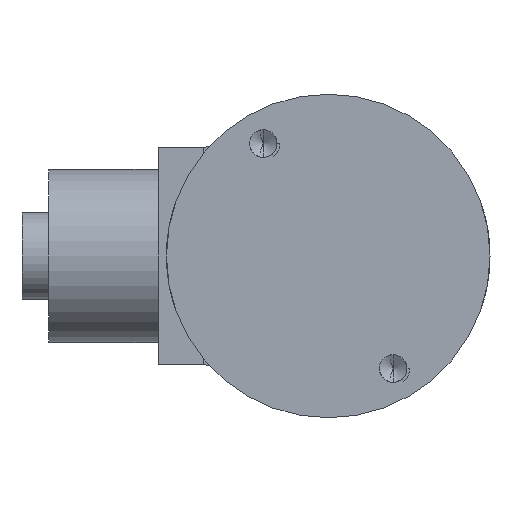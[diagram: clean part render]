
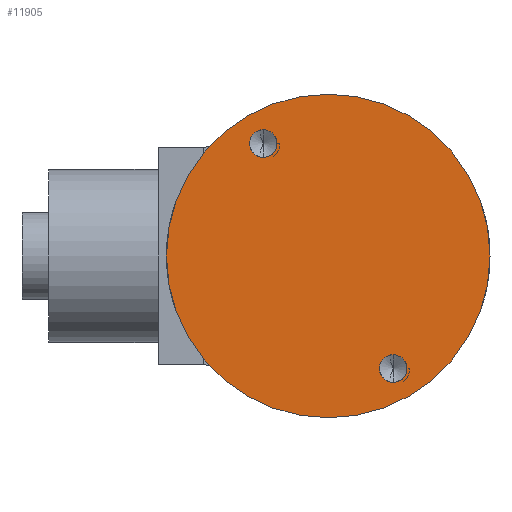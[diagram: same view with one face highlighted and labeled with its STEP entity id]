
A CAD part, front view. The second image highlights one B-rep face of the part: STEP entity #11905.
In plain terms, the highlighted planar face has unit normal (0, -1, 0).
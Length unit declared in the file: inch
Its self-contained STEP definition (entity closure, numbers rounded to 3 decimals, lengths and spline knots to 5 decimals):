
#163 = CARTESIAN_POINT ( 'NONE',  ( -0.375, -1.74, 0.72902 ) ) ;
#186 = CARTESIAN_POINT ( 'NONE',  ( 0.375, -1.74, -0.72902 ) ) ;
#237 = ORIENTED_EDGE ( 'NONE', *, *, #12382, .F. ) ;
#408 = ORIENTED_EDGE ( 'NONE', *, *, #9824, .F. ) ;
#421 = DIRECTION ( 'NONE',  ( 0., 0., -1. ) ) ;
#488 = FACE_BOUND ( 'NONE', #7915, .T. ) ;
#581 = DIRECTION ( 'NONE',  ( 0., 0., 1. ) ) ;
#601 = DIRECTION ( 'NONE',  ( 0., -1., 0. ) ) ;
#669 = CARTESIAN_POINT ( 'NONE',  ( -0.375, -1.74, 0.64952 ) ) ;
#689 = CARTESIAN_POINT ( 'NONE',  ( 0.375, -1.74, -0.64952 ) ) ;
#865 = VERTEX_POINT ( 'NONE', #7858 ) ;
#1002 = EDGE_CURVE ( 'Defeatured_0_24+Defeatured_0_23+Defeatured_0_23+Defeatured_0_23', #3420, #5381, #9059, .T. ) ;
#1246 = DIRECTION ( 'NONE',  ( 0., -1., 0. ) ) ;
#1431 = AXIS2_PLACEMENT_3D ( 'NONE', #669, #1917, #15689 ) ;
#1680 = AXIS2_PLACEMENT_3D ( 'NONE', #9819, #7304, #15265 ) ;
#1917 = DIRECTION ( 'NONE',  ( 0., -1., 0. ) ) ;
#1981 = AXIS2_PLACEMENT_3D ( 'NONE', #689, #601, #421 ) ;
#2399 = DIRECTION ( 'NONE',  ( 0., 1., 0. ) ) ;
#2434 = AXIS2_PLACEMENT_3D ( 'NONE', #3333, #10052, #8534 ) ;
#2731 = CIRCLE ( 'NONE', #2434, 0.0795 ) ;
#3333 = CARTESIAN_POINT ( 'NONE',  ( 0.375, -1.74, -0.64952 ) ) ;
#3420 = VERTEX_POINT ( 'NONE', #4262 ) ;
#3990 = CARTESIAN_POINT ( 'NONE',  ( 0., -1.74, 0.934 ) ) ;
#4262 = CARTESIAN_POINT ( 'NONE',  ( 0., -1.74, -0.934 ) ) ;
#4695 = VERTEX_POINT ( 'NONE', #8395 ) ;
#5142 = AXIS2_PLACEMENT_3D ( 'NONE', #13507, #1246, #13854 ) ;
#5381 = VERTEX_POINT ( 'NONE', #3990 ) ;
#5984 = EDGE_LOOP ( 'NONE', ( #12495, #8912, #408 ) ) ;
#6321 = EDGE_CURVE ( 'Defeatured_0_24+Defeatured_0_23+Defeatured_0_23+Defeatured_0_23', #5381, #3420, #8236, .T. ) ;
#7099 = CIRCLE ( 'NONE', #1680, 0.0795 ) ;
#7304 = DIRECTION ( 'NONE',  ( 0., -1., 0. ) ) ;
#7469 = VERTEX_POINT ( 'NONE', #17545 ) ;
#7553 = FACE_BOUND ( 'NONE', #5984, .T. ) ;
#7565 = VERTEX_POINT ( 'NONE', #186 ) ;
#7691 = CIRCLE ( 'NONE', #1981, 0.0795 ) ;
#7749 = CARTESIAN_POINT ( 'NONE',  ( 0.375, -1.74, -0.57002 ) ) ;
#7858 = CARTESIAN_POINT ( 'NONE',  ( -0.2955, -1.74, 0.64952 ) ) ;
#7915 = EDGE_LOOP ( 'NONE', ( #237, #9725, #12690 ) ) ;
#8010 = CIRCLE ( 'NONE', #5142, 0.0795 ) ;
#8236 = CIRCLE ( 'NONE', #12807, 0.934 ) ;
#8395 = CARTESIAN_POINT ( 'NONE',  ( -0.375, -1.74, 0.57002 ) ) ;
#8534 = DIRECTION ( 'NONE',  ( 0., 0., -1. ) ) ;
#8651 = CARTESIAN_POINT ( 'NONE',  ( 0., -1.74, 0. ) ) ;
#8912 = ORIENTED_EDGE ( 'NONE', *, *, #11894, .F. ) ;
#9059 = CIRCLE ( 'NONE', #12492, 0.934 ) ;
#9117 = DIRECTION ( 'NONE',  ( 0., 0., 1. ) ) ;
#9372 = ORIENTED_EDGE ( 'NONE', *, *, #6321, .F. ) ;
#9388 = EDGE_CURVE ( 'Defeatured_0_90+Defeatured_0_23+Defeatured_0_88+Defeatured_0_87', #16405, #7565, #7691, .T. ) ;
#9715 = DIRECTION ( 'NONE',  ( 0., 0., -1. ) ) ;
#9725 = ORIENTED_EDGE ( 'NONE', *, *, #16802, .F. ) ;
#9819 = CARTESIAN_POINT ( 'NONE',  ( -0.375, -1.74, 0.64952 ) ) ;
#9824 = EDGE_CURVE ( 'Defeatured_0_97+Defeatured_0_23+Defeatured_0_95+Defeatured_0_94', #12780, #4695, #14281, .T. ) ;
#10046 = EDGE_LOOP ( 'NONE', ( #9372, #11999 ) ) ;
#10052 = DIRECTION ( 'NONE',  ( 0., -1., 0. ) ) ;
#11431 = AXIS2_PLACEMENT_3D ( 'NONE', #11493, #14179, #581 ) ;
#11493 = CARTESIAN_POINT ( 'NONE',  ( 0., -1.74, 0. ) ) ;
#11894 = EDGE_CURVE ( 'Defeatured_0_97+Defeatured_0_23+Defeatured_0_95+Defeatured_0_94', #4695, #865, #12294, .T. ) ;
#11905 = ADVANCED_FACE ( 'Defeatured_0_23', ( #7553, #488, #12837 ), #13022, .F. ) ;
#11999 = ORIENTED_EDGE ( 'NONE', *, *, #1002, .F. ) ;
#12294 = CIRCLE ( 'NONE', #1431, 0.0795 ) ;
#12315 = CARTESIAN_POINT ( 'NONE',  ( -0.375, -1.74, 0.64952 ) ) ;
#12382 = EDGE_CURVE ( 'Defeatured_0_90+Defeatured_0_23+Defeatured_0_88+Defeatured_0_87', #7469, #16405, #8010, .T. ) ;
#12486 = DIRECTION ( 'NONE',  ( 0., -1., 0. ) ) ;
#12492 = AXIS2_PLACEMENT_3D ( 'NONE', #8651, #14014, #16778 ) ;
#12495 = ORIENTED_EDGE ( 'NONE', *, *, #12995, .F. ) ;
#12690 = ORIENTED_EDGE ( 'NONE', *, *, #9388, .F. ) ;
#12780 = VERTEX_POINT ( 'NONE', #163 ) ;
#12807 = AXIS2_PLACEMENT_3D ( 'NONE', #12967, #2399, #9117 ) ;
#12837 = FACE_OUTER_BOUND ( 'NONE', #10046, .T. ) ;
#12967 = CARTESIAN_POINT ( 'NONE',  ( 0., -1.74, 0. ) ) ;
#12995 = EDGE_CURVE ( 'Defeatured_0_97+Defeatured_0_23+Defeatured_0_95+Defeatured_0_94', #865, #12780, #7099, .T. ) ;
#13022 = PLANE ( 'NONE',  #11431 ) ;
#13507 = CARTESIAN_POINT ( 'NONE',  ( 0.375, -1.74, -0.64952 ) ) ;
#13854 = DIRECTION ( 'NONE',  ( 0., 0., -1. ) ) ;
#14014 = DIRECTION ( 'NONE',  ( 0., 1., 0. ) ) ;
#14179 = DIRECTION ( 'NONE',  ( 0., 1., 0. ) ) ;
#14281 = CIRCLE ( 'NONE', #14561, 0.0795 ) ;
#14561 = AXIS2_PLACEMENT_3D ( 'NONE', #12315, #12486, #9715 ) ;
#15265 = DIRECTION ( 'NONE',  ( 0., 0., -1. ) ) ;
#15689 = DIRECTION ( 'NONE',  ( 0., 0., -1. ) ) ;
#16405 = VERTEX_POINT ( 'NONE', #7749 ) ;
#16778 = DIRECTION ( 'NONE',  ( 0., 0., 1. ) ) ;
#16802 = EDGE_CURVE ( 'Defeatured_0_90+Defeatured_0_23+Defeatured_0_88+Defeatured_0_87', #7565, #7469, #2731, .T. ) ;
#17545 = CARTESIAN_POINT ( 'NONE',  ( 0.4545, -1.74, -0.64952 ) ) ;
